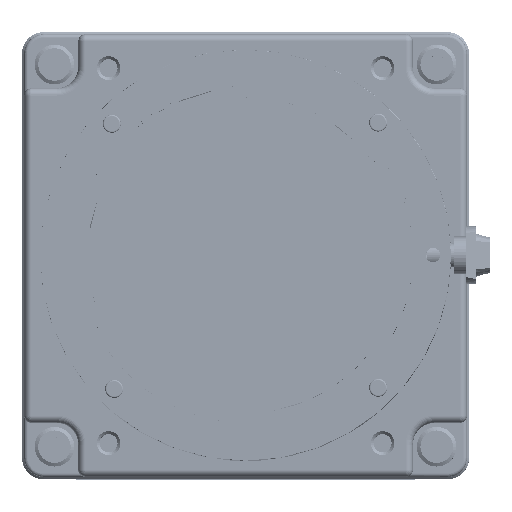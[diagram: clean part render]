
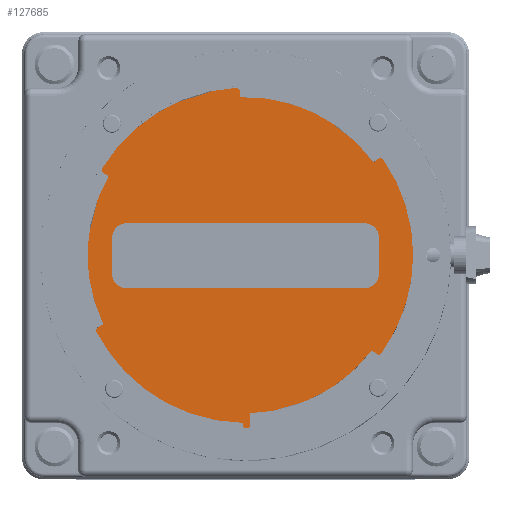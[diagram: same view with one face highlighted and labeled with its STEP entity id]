
A CAD part, top view. The second image highlights one B-rep face of the part: STEP entity #127685.
In plain terms, the highlighted planar face has unit normal (0, 0, -1).
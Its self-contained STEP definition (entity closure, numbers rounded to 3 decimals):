
#14338=DIRECTION('',(0.,1.,0.));
#14339=VECTOR('',#14338,39.6);
#14340=CARTESIAN_POINT('',(-27.8,-19.8,-23.774));
#14341=LINE('',#14340,#14339);
#14358=DIRECTION('',(-1.,0.,0.));
#14359=VECTOR('',#14358,13.976);
#14360=CARTESIAN_POINT('',(-11.824,-21.8,-23.774));
#14361=LINE('',#14360,#14359);
#14501=CARTESIAN_POINT('',(0.,0.,-23.774));
#14502=DIRECTION('',(0.,0.,1.));
#14503=DIRECTION('',(0.477,0.879,0.));
#14504=AXIS2_PLACEMENT_3D('',#14501,#14502,#14503);
#14506=DIRECTION('',(-1.,0.,0.));
#14507=VECTOR('',#14506,13.976);
#14508=CARTESIAN_POINT('',(-11.824,21.8,-23.774));
#14509=LINE('',#14508,#14507);
#14510=CARTESIAN_POINT('',(-25.8,19.8,-23.774));
#14511=DIRECTION('',(0.,0.,1.));
#14512=DIRECTION('',(0.,1.,0.));
#14513=AXIS2_PLACEMENT_3D('',#14510,#14511,#14512);
#14515=CARTESIAN_POINT('',(-25.8,-19.8,-23.774));
#14516=DIRECTION('',(0.,0.,1.));
#14517=DIRECTION('',(-1.,0.,0.));
#14518=AXIS2_PLACEMENT_3D('',#14515,#14516,#14517);
#14520=CARTESIAN_POINT('',(0.,0.,-23.774));
#14521=DIRECTION('',(0.,0.,1.));
#14522=DIRECTION('',(-0.477,-0.879,0.));
#14523=AXIS2_PLACEMENT_3D('',#14520,#14521,#14522);
#14525=CARTESIAN_POINT('',(25.8,-19.8,-23.774));
#14526=DIRECTION('',(0.,0.,1.));
#14527=DIRECTION('',(0.,-1.,0.));
#14528=AXIS2_PLACEMENT_3D('',#14525,#14526,#14527);
#14530=CARTESIAN_POINT('',(25.8,19.8,-23.774));
#14531=DIRECTION('',(0.,0.,1.));
#14532=DIRECTION('',(1.,0.,0.));
#14533=AXIS2_PLACEMENT_3D('',#14530,#14531,#14532);
#14535=CARTESIAN_POINT('',(25.,-19.,-23.774));
#14536=DIRECTION('',(0.,0.,-1.));
#14537=DIRECTION('',(1.,0.,0.));
#14538=AXIS2_PLACEMENT_3D('',#14535,#14536,#14537);
#14540=CARTESIAN_POINT('',(25.,-19.,-23.774));
#14541=DIRECTION('',(0.,0.,-1.));
#14542=DIRECTION('',(-1.,0.,0.));
#14543=AXIS2_PLACEMENT_3D('',#14540,#14541,#14542);
#14545=CARTESIAN_POINT('',(-16.5,-2.5,-23.774));
#14546=DIRECTION('',(0.,0.,-1.));
#14547=DIRECTION('',(0.,-1.,0.));
#14548=AXIS2_PLACEMENT_3D('',#14545,#14546,#14547);
#14550=CARTESIAN_POINT('',(-16.5,2.5,-23.774));
#14551=DIRECTION('',(0.,0.,-1.));
#14552=DIRECTION('',(-1.,0.,0.));
#14553=AXIS2_PLACEMENT_3D('',#14550,#14551,#14552);
#14555=CARTESIAN_POINT('',(16.5,2.5,-23.774));
#14556=DIRECTION('',(0.,0.,-1.));
#14557=DIRECTION('',(0.,1.,0.));
#14558=AXIS2_PLACEMENT_3D('',#14555,#14556,#14557);
#14560=CARTESIAN_POINT('',(16.5,-2.5,-23.774));
#14561=DIRECTION('',(0.,0.,-1.));
#14562=DIRECTION('',(1.,0.,0.));
#14563=AXIS2_PLACEMENT_3D('',#14560,#14561,#14562);
#14565=CARTESIAN_POINT('',(-25.,-19.,-23.774));
#14566=DIRECTION('',(0.,0.,-1.));
#14567=DIRECTION('',(1.,0.,0.));
#14568=AXIS2_PLACEMENT_3D('',#14565,#14566,#14567);
#14570=CARTESIAN_POINT('',(-25.,-19.,-23.774));
#14571=DIRECTION('',(0.,0.,-1.));
#14572=DIRECTION('',(-1.,0.,0.));
#14573=AXIS2_PLACEMENT_3D('',#14570,#14571,#14572);
#14575=CARTESIAN_POINT('',(25.,19.,-23.774));
#14576=DIRECTION('',(0.,0.,-1.));
#14577=DIRECTION('',(1.,0.,0.));
#14578=AXIS2_PLACEMENT_3D('',#14575,#14576,#14577);
#14580=CARTESIAN_POINT('',(25.,19.,-23.774));
#14581=DIRECTION('',(0.,0.,-1.));
#14582=DIRECTION('',(-1.,0.,0.));
#14583=AXIS2_PLACEMENT_3D('',#14580,#14581,#14582);
#14585=CARTESIAN_POINT('',(-25.,19.,-23.774));
#14586=DIRECTION('',(0.,0.,-1.));
#14587=DIRECTION('',(1.,0.,0.));
#14588=AXIS2_PLACEMENT_3D('',#14585,#14586,#14587);
#14590=CARTESIAN_POINT('',(-25.,19.,-23.774));
#14591=DIRECTION('',(0.,0.,-1.));
#14592=DIRECTION('',(-1.,0.,0.));
#14593=AXIS2_PLACEMENT_3D('',#14590,#14591,#14592);
#14595=DIRECTION('',(-1.,0.,0.));
#14596=VECTOR('',#14595,13.976);
#14597=CARTESIAN_POINT('',(25.8,-21.8,-23.774));
#14598=LINE('',#14597,#14596);
#14611=DIRECTION('',(0.,-1.,0.));
#14612=VECTOR('',#14611,39.6);
#14613=CARTESIAN_POINT('',(27.8,19.8,-23.774));
#14614=LINE('',#14613,#14612);
#14631=DIRECTION('',(1.,0.,0.));
#14632=VECTOR('',#14631,13.976);
#14633=CARTESIAN_POINT('',(11.824,21.8,-23.774));
#14634=LINE('',#14633,#14632);
#15264=DIRECTION('',(-1.,0.,0.));
#15265=VECTOR('',#15264,33.);
#15266=CARTESIAN_POINT('',(16.5,-4.5,-23.774));
#15267=LINE('',#15266,#15265);
#15280=DIRECTION('',(0.,-1.,0.));
#15281=VECTOR('',#15280,5.);
#15282=CARTESIAN_POINT('',(18.5,2.5,-23.774));
#15283=LINE('',#15282,#15281);
#15296=DIRECTION('',(1.,0.,0.));
#15297=VECTOR('',#15296,33.);
#15298=CARTESIAN_POINT('',(-16.5,4.5,-23.774));
#15299=LINE('',#15298,#15297);
#15312=DIRECTION('',(0.,1.,0.));
#15313=VECTOR('',#15312,5.);
#15314=CARTESIAN_POINT('',(-18.5,-2.5,-23.774));
#15315=LINE('',#15314,#15313);
#103907=CARTESIAN_POINT('',(-25.8,21.8,-23.774));
#103908=VERTEX_POINT('',#103907);
#103909=CARTESIAN_POINT('',(-11.824,21.8,-23.774));
#103910=VERTEX_POINT('',#103909);
#103911=CARTESIAN_POINT('',(-27.8,19.8,-23.774));
#103912=VERTEX_POINT('',#103911);
#103913=CARTESIAN_POINT('',(11.824,21.8,-23.774));
#103914=VERTEX_POINT('',#103913);
#103915=CARTESIAN_POINT('',(25.8,21.8,-23.774));
#103916=VERTEX_POINT('',#103915);
#103917=CARTESIAN_POINT('',(27.8,19.8,-23.774));
#103918=VERTEX_POINT('',#103917);
#103919=CARTESIAN_POINT('',(27.8,-19.8,-23.774));
#103920=VERTEX_POINT('',#103919);
#103921=CARTESIAN_POINT('',(25.8,-21.8,-23.774));
#103922=VERTEX_POINT('',#103921);
#103923=CARTESIAN_POINT('',(11.824,-21.8,-23.774));
#103924=VERTEX_POINT('',#103923);
#103925=CARTESIAN_POINT('',(-11.824,-21.8,-23.774));
#103926=VERTEX_POINT('',#103925);
#103927=CARTESIAN_POINT('',(-25.8,-21.8,-23.774));
#103928=VERTEX_POINT('',#103927);
#103929=CARTESIAN_POINT('',(-27.8,-19.8,-23.774));
#103930=VERTEX_POINT('',#103929);
#103931=CARTESIAN_POINT('',(26.15,-19.,-23.774));
#103932=CARTESIAN_POINT('',(23.85,-19.,-23.774));
#103933=VERTEX_POINT('',#103931);
#103934=VERTEX_POINT('',#103932);
#103935=CARTESIAN_POINT('',(16.5,-4.5,-23.774));
#103936=CARTESIAN_POINT('',(-16.5,-4.5,-23.774));
#103937=VERTEX_POINT('',#103935);
#103938=VERTEX_POINT('',#103936);
#103939=CARTESIAN_POINT('',(18.5,-2.5,-23.774));
#103940=VERTEX_POINT('',#103939);
#103941=CARTESIAN_POINT('',(18.5,2.5,-23.774));
#103942=VERTEX_POINT('',#103941);
#103943=CARTESIAN_POINT('',(16.5,4.5,-23.774));
#103944=VERTEX_POINT('',#103943);
#103945=CARTESIAN_POINT('',(-16.5,4.5,-23.774));
#103946=VERTEX_POINT('',#103945);
#103947=CARTESIAN_POINT('',(-18.5,2.5,-23.774));
#103948=VERTEX_POINT('',#103947);
#103949=CARTESIAN_POINT('',(-18.5,-2.5,-23.774));
#103950=VERTEX_POINT('',#103949);
#103951=CARTESIAN_POINT('',(-23.85,-19.,-23.774));
#103952=CARTESIAN_POINT('',(-26.15,-19.,-23.774));
#103953=VERTEX_POINT('',#103951);
#103954=VERTEX_POINT('',#103952);
#103955=CARTESIAN_POINT('',(26.15,19.,-23.774));
#103956=CARTESIAN_POINT('',(23.85,19.,-23.774));
#103957=VERTEX_POINT('',#103955);
#103958=VERTEX_POINT('',#103956);
#103959=CARTESIAN_POINT('',(-23.85,19.,-23.774));
#103960=CARTESIAN_POINT('',(-26.15,19.,-23.774));
#103961=VERTEX_POINT('',#103959);
#103962=VERTEX_POINT('',#103960);
#127619=CARTESIAN_POINT('',(0.,0.,-23.774));
#127620=DIRECTION('',(0.,0.,1.));
#127621=DIRECTION('',(1.,0.,0.));
#127622=AXIS2_PLACEMENT_3D('',#127619,#127620,#127621);
#127623=PLANE('',#127622);
#127624=ORIENTED_EDGE('',*,*,#127610,.T.);
#127625=ORIENTED_EDGE('',*,*,#127368,.T.);
#127626=ORIENTED_EDGE('',*,*,#127385,.T.);
#127627=ORIENTED_EDGE('',*,*,#127397,.F.);
#127628=ORIENTED_EDGE('',*,*,#127413,.T.);
#127629=ORIENTED_EDGE('',*,*,#127426,.F.);
#127630=ORIENTED_EDGE('',*,*,#127441,.T.);
#127632=ORIENTED_EDGE('',*,*,#127631,.F.);
#127634=ORIENTED_EDGE('',*,*,#127633,.T.);
#127636=ORIENTED_EDGE('',*,*,#127635,.F.);
#127638=ORIENTED_EDGE('',*,*,#127637,.T.);
#127640=ORIENTED_EDGE('',*,*,#127639,.F.);
#127641=EDGE_LOOP('',(#127624,#127625,#127626,#127627,#127628,#127629,#127630,
#127632,#127634,#127636,#127638,#127640));
#127642=FACE_OUTER_BOUND('',#127641,.F.);
#127644=ORIENTED_EDGE('',*,*,#127643,.T.);
#127646=ORIENTED_EDGE('',*,*,#127645,.T.);
#127647=EDGE_LOOP('',(#127644,#127646));
#127648=FACE_BOUND('',#127647,.F.);
#127650=ORIENTED_EDGE('',*,*,#127649,.T.);
#127652=ORIENTED_EDGE('',*,*,#127651,.T.);
#127654=ORIENTED_EDGE('',*,*,#127653,.T.);
#127656=ORIENTED_EDGE('',*,*,#127655,.T.);
#127658=ORIENTED_EDGE('',*,*,#127657,.T.);
#127660=ORIENTED_EDGE('',*,*,#127659,.T.);
#127662=ORIENTED_EDGE('',*,*,#127661,.T.);
#127664=ORIENTED_EDGE('',*,*,#127663,.T.);
#127665=EDGE_LOOP('',(#127650,#127652,#127654,#127656,#127658,#127660,#127662,
#127664));
#127666=FACE_BOUND('',#127665,.F.);
#127668=ORIENTED_EDGE('',*,*,#127667,.T.);
#127670=ORIENTED_EDGE('',*,*,#127669,.T.);
#127671=EDGE_LOOP('',(#127668,#127670));
#127672=FACE_BOUND('',#127671,.F.);
#127674=ORIENTED_EDGE('',*,*,#127673,.T.);
#127676=ORIENTED_EDGE('',*,*,#127675,.T.);
#127677=EDGE_LOOP('',(#127674,#127676));
#127678=FACE_BOUND('',#127677,.F.);
#127680=ORIENTED_EDGE('',*,*,#127679,.T.);
#127682=ORIENTED_EDGE('',*,*,#127681,.T.);
#127683=EDGE_LOOP('',(#127680,#127682));
#127684=FACE_BOUND('',#127683,.F.);
#127685=ADVANCED_FACE('',(#127642,#127648,#127666,#127672,#127678,#127684),
#127623,.F.);
#14505=CIRCLE('',#14504,24.8);
#14514=CIRCLE('',#14513,2.);
#14519=CIRCLE('',#14518,2.);
#14524=CIRCLE('',#14523,24.8);
#14529=CIRCLE('',#14528,2.);
#14534=CIRCLE('',#14533,2.);
#14539=CIRCLE('',#14538,1.15);
#14544=CIRCLE('',#14543,1.15);
#14549=CIRCLE('',#14548,2.);
#14554=CIRCLE('',#14553,2.);
#14559=CIRCLE('',#14558,2.);
#14564=CIRCLE('',#14563,2.);
#14569=CIRCLE('',#14568,1.15);
#14574=CIRCLE('',#14573,1.15);
#14579=CIRCLE('',#14578,1.15);
#14584=CIRCLE('',#14583,1.15);
#14589=CIRCLE('',#14588,1.15);
#14594=CIRCLE('',#14593,1.15);
#127368=EDGE_CURVE('',#103910,#103908,#14509,.T.);
#127385=EDGE_CURVE('',#103908,#103912,#14514,.T.);
#127397=EDGE_CURVE('',#103930,#103912,#14341,.T.);
#127413=EDGE_CURVE('',#103930,#103928,#14519,.T.);
#127426=EDGE_CURVE('',#103926,#103928,#14361,.T.);
#127441=EDGE_CURVE('',#103926,#103924,#14524,.T.);
#127610=EDGE_CURVE('',#103914,#103910,#14505,.T.);
#127631=EDGE_CURVE('',#103922,#103924,#14598,.T.);
#127633=EDGE_CURVE('',#103922,#103920,#14529,.T.);
#127635=EDGE_CURVE('',#103918,#103920,#14614,.T.);
#127637=EDGE_CURVE('',#103918,#103916,#14534,.T.);
#127639=EDGE_CURVE('',#103914,#103916,#14634,.T.);
#127643=EDGE_CURVE('',#103933,#103934,#14539,.T.);
#127645=EDGE_CURVE('',#103934,#103933,#14544,.T.);
#127649=EDGE_CURVE('',#103937,#103938,#15267,.T.);
#127651=EDGE_CURVE('',#103938,#103950,#14549,.T.);
#127653=EDGE_CURVE('',#103950,#103948,#15315,.T.);
#127655=EDGE_CURVE('',#103948,#103946,#14554,.T.);
#127657=EDGE_CURVE('',#103946,#103944,#15299,.T.);
#127659=EDGE_CURVE('',#103944,#103942,#14559,.T.);
#127661=EDGE_CURVE('',#103942,#103940,#15283,.T.);
#127663=EDGE_CURVE('',#103940,#103937,#14564,.T.);
#127667=EDGE_CURVE('',#103953,#103954,#14569,.T.);
#127669=EDGE_CURVE('',#103954,#103953,#14574,.T.);
#127673=EDGE_CURVE('',#103957,#103958,#14579,.T.);
#127675=EDGE_CURVE('',#103958,#103957,#14584,.T.);
#127679=EDGE_CURVE('',#103961,#103962,#14589,.T.);
#127681=EDGE_CURVE('',#103962,#103961,#14594,.T.);
